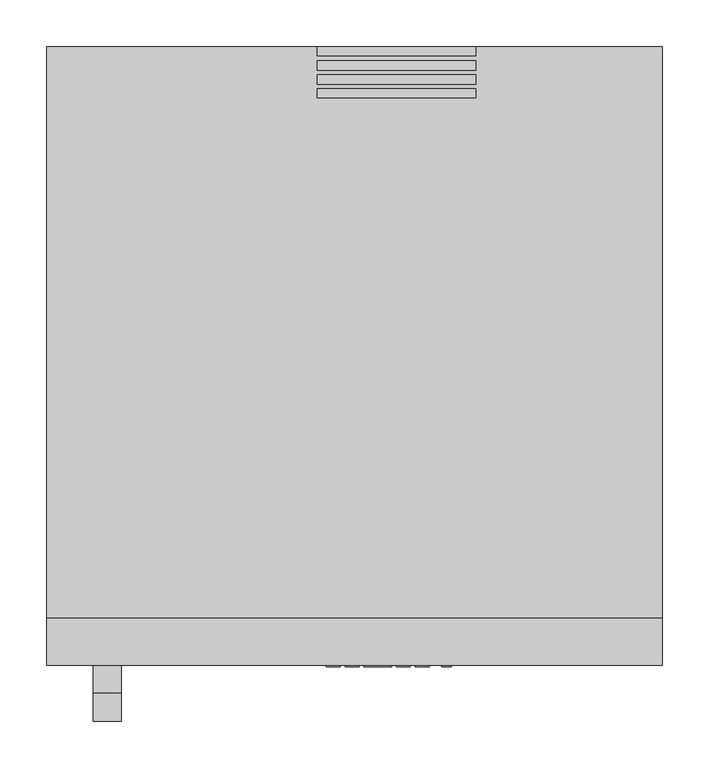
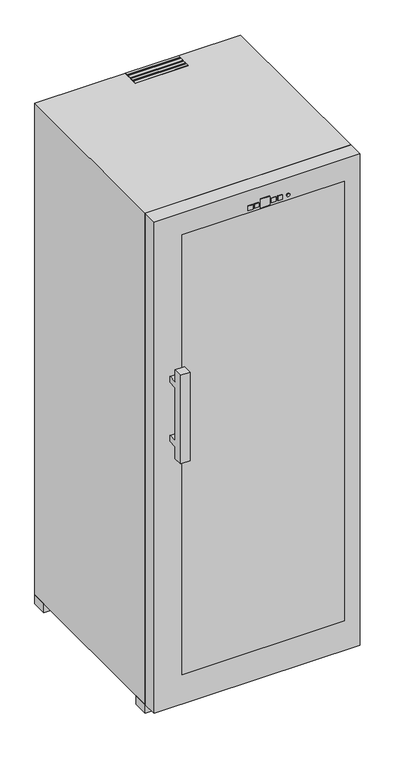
"""IFC4 building model written with IfcOpenShell, lengths in millimetres: proxy geometry, Wkb 4112_049 : WKb 4112."""

from ifc_helpers import new_model, si_unit, point, frame, frame_2d, origin, place, context, project, spatial, polyline, circle_curve, trimmed, segment, composite_curve, outline, extrude, faceted_brep, source, transform, mapped, element, save


def specialty_equipment_9dc1592e(model_context):
    return source(origin(), model_context, "Body", "SolidModel", [
        extrude(outline(polyline([(-390.0, -82.8345306), (-390.0, -110.3345306), (-390.0, -645.8345306), (-910.6805292, -645.8345306), (-910.6805292, -82.8345306), (-390.0, -82.8345306)]), holes=[polyline([(-820.6885747, -112.8345306), (-880.6805292, -112.8345306), (-880.6805292, -615.8345306), (-845.6885747, -615.8345306), (-820.6885747, -615.8345306), (-820.6885747, -112.8345306)]), polyline([(-805.0, -615.8345306), (-740.6885747, -615.8345306), (-740.6885747, -112.8345306), (-805.0, -112.8345306), (-805.0, -615.8345306)]), polyline([(-725.0, -615.8345306), (-660.6885747, -615.8345306), (-660.6885747, -112.8345306), (-725.0, -112.8345306), (-725.0, -615.8345306)]), polyline([(-645.0, -615.8345306), (-575.6885747, -615.8345306), (-575.6885747, -112.8345306), (-645.0, -112.8345306), (-645.0, -615.8345306)]), polyline([(-420.0, -112.8345306), (-477.5, -112.8345306), (-477.5, -615.8345306), (-455.2107547, -615.8345306), (-420.0, -615.8345306), (-420.0, -112.8345306)]), polyline([(-560.0, -615.8345306), (-493.1885747, -615.8345306), (-493.1885747, -112.8345306), (-560.0, -112.8345306), (-560.0, -615.8345306)])]), frame((0.0, 0.0, 957.8132517), z_axis=(0.0, 0.0, 1.0), x_axis=(1.0, 0.0, 0.0)), (0.0, 0.0, 1.0), 15.0),
        extrude(outline(polyline([(-390.0, -82.8345306), (-390.0, -110.3345306), (-390.0, -645.8345306), (-910.6805292, -645.8345306), (-910.6805292, -82.8345306), (-390.0, -82.8345306)]), holes=[polyline([(-820.6885747, -112.8345306), (-880.6805292, -112.8345306), (-880.6805292, -615.8345306), (-845.6885747, -615.8345306), (-820.6885747, -615.8345306), (-820.6885747, -112.8345306)]), polyline([(-805.0, -615.8345306), (-740.6885747, -615.8345306), (-740.6885747, -112.8345306), (-805.0, -112.8345306), (-805.0, -615.8345306)]), polyline([(-725.0, -615.8345306), (-660.6885747, -615.8345306), (-660.6885747, -112.8345306), (-725.0, -112.8345306), (-725.0, -615.8345306)]), polyline([(-645.0, -615.8345306), (-575.6885747, -615.8345306), (-575.6885747, -112.8345306), (-645.0, -112.8345306), (-645.0, -615.8345306)]), polyline([(-420.0, -112.8345306), (-477.5, -112.8345306), (-477.5, -615.8345306), (-455.2107547, -615.8345306), (-420.0, -615.8345306), (-420.0, -112.8345306)]), polyline([(-560.0, -615.8345306), (-493.1885747, -615.8345306), (-493.1885747, -112.8345306), (-560.0, -112.8345306), (-560.0, -615.8345306)])]), frame((0.0, 0.0, 757.8132517), z_axis=(0.0, 0.0, 1.0), x_axis=(1.0, 0.0, 0.0)), (0.0, 0.0, 1.0), 15.0),
        extrude(outline(polyline([(-390.0, -82.8345306), (-390.0, -110.3345306), (-390.0, -645.8345306), (-910.6805292, -645.8345306), (-910.6805292, -82.8345306), (-390.0, -82.8345306)]), holes=[polyline([(-820.6885747, -112.8345306), (-880.6805292, -112.8345306), (-880.6805292, -615.8345306), (-845.6885747, -615.8345306), (-820.6885747, -615.8345306), (-820.6885747, -112.8345306)]), polyline([(-805.0, -615.8345306), (-740.6885747, -615.8345306), (-740.6885747, -112.8345306), (-805.0, -112.8345306), (-805.0, -615.8345306)]), polyline([(-725.0, -615.8345306), (-660.6885747, -615.8345306), (-660.6885747, -112.8345306), (-725.0, -112.8345306), (-725.0, -615.8345306)]), polyline([(-645.0, -615.8345306), (-575.6885747, -615.8345306), (-575.6885747, -112.8345306), (-645.0, -112.8345306), (-645.0, -615.8345306)]), polyline([(-420.0, -112.8345306), (-477.5, -112.8345306), (-477.5, -615.8345306), (-455.2107547, -615.8345306), (-420.0, -615.8345306), (-420.0, -112.8345306)]), polyline([(-560.0, -615.8345306), (-493.1885747, -615.8345306), (-493.1885747, -112.8345306), (-560.0, -112.8345306), (-560.0, -615.8345306)])]), frame((0.0, 0.0, 457.8132517), z_axis=(0.0, 0.0, 1.0), x_axis=(1.0, 0.0, 0.0)), (0.0, 0.0, 1.0), 15.0),
        extrude(outline(polyline([(-390.0, -82.8345306), (-390.0, -110.3345306), (-390.0, -645.8345306), (-910.6805292, -645.8345306), (-910.6805292, -82.8345306), (-390.0, -82.8345306)]), holes=[polyline([(-820.6885747, -112.8345306), (-880.6805292, -112.8345306), (-880.6805292, -615.8345306), (-845.6885747, -615.8345306), (-820.6885747, -615.8345306), (-820.6885747, -112.8345306)]), polyline([(-805.0, -615.8345306), (-740.6885747, -615.8345306), (-740.6885747, -112.8345306), (-805.0, -112.8345306), (-805.0, -615.8345306)]), polyline([(-725.0, -615.8345306), (-660.6885747, -615.8345306), (-660.6885747, -112.8345306), (-725.0, -112.8345306), (-725.0, -615.8345306)]), polyline([(-645.0, -615.8345306), (-575.6885747, -615.8345306), (-575.6885747, -112.8345306), (-645.0, -112.8345306), (-645.0, -615.8345306)]), polyline([(-420.0, -112.8345306), (-477.5, -112.8345306), (-477.5, -615.8345306), (-455.2107547, -615.8345306), (-420.0, -615.8345306), (-420.0, -112.8345306)]), polyline([(-560.0, -615.8345306), (-493.1885747, -615.8345306), (-493.1885747, -112.8345306), (-560.0, -112.8345306), (-560.0, -615.8345306)])]), frame((0.0, 0.0, 197.8132517), z_axis=(0.0, 0.0, 1.0), x_axis=(1.0, 0.0, 0.0)), (0.0, 0.0, 1.0), 15.0),
        extrude(outline(polyline([(-390.0, -82.8345306), (-390.0, -110.3345306), (-390.0, -645.8345306), (-910.6805292, -645.8345306), (-910.6805292, -82.8345306), (-390.0, -82.8345306)]), holes=[polyline([(-820.6885747, -112.8345306), (-880.6805292, -112.8345306), (-880.6805292, -615.8345306), (-845.6885747, -615.8345306), (-820.6885747, -615.8345306), (-820.6885747, -112.8345306)]), polyline([(-805.0, -615.8345306), (-740.6885747, -615.8345306), (-740.6885747, -112.8345306), (-805.0, -112.8345306), (-805.0, -615.8345306)]), polyline([(-725.0, -615.8345306), (-660.6885747, -615.8345306), (-660.6885747, -112.8345306), (-725.0, -112.8345306), (-725.0, -615.8345306)]), polyline([(-645.0, -615.8345306), (-575.6885747, -615.8345306), (-575.6885747, -112.8345306), (-645.0, -112.8345306), (-645.0, -615.8345306)]), polyline([(-420.0, -112.8345306), (-477.5, -112.8345306), (-477.5, -615.8345306), (-455.2107547, -615.8345306), (-420.0, -615.8345306), (-420.0, -112.8345306)]), polyline([(-560.0, -615.8345306), (-493.1885747, -615.8345306), (-493.1885747, -112.8345306), (-560.0, -112.8345306), (-560.0, -615.8345306)])]), frame((0.0, 0.0, -122.1867483), z_axis=(0.0, 0.0, 1.0), x_axis=(1.0, 0.0, 0.0)), (0.0, 0.0, 1.0), 15.0),
        extrude(outline(polyline([(-390.0, -82.8345306), (-390.0, -110.3345306), (-390.0, -645.8345306), (-910.6805292, -645.8345306), (-910.6805292, -82.8345306), (-390.0, -82.8345306)]), holes=[polyline([(-820.6885747, -112.8345306), (-880.6805292, -112.8345306), (-880.6805292, -615.8345306), (-845.6885747, -615.8345306), (-820.6885747, -615.8345306), (-820.6885747, -112.8345306)]), polyline([(-805.0, -615.8345306), (-740.6885747, -615.8345306), (-740.6885747, -112.8345306), (-805.0, -112.8345306), (-805.0, -615.8345306)]), polyline([(-725.0, -615.8345306), (-660.6885747, -615.8345306), (-660.6885747, -112.8345306), (-725.0, -112.8345306), (-725.0, -615.8345306)]), polyline([(-645.0, -615.8345306), (-575.6885747, -615.8345306), (-575.6885747, -112.8345306), (-645.0, -112.8345306), (-645.0, -615.8345306)]), polyline([(-420.0, -112.8345306), (-477.5, -112.8345306), (-477.5, -615.8345306), (-455.2107547, -615.8345306), (-420.0, -615.8345306), (-420.0, -112.8345306)]), polyline([(-560.0, -615.8345306), (-493.1885747, -615.8345306), (-493.1885747, -112.8345306), (-560.0, -112.8345306), (-560.0, -615.8345306)])]), frame((0.0, 0.0, -347.1867483), z_axis=(0.0, 0.0, 1.0), x_axis=(1.0, 0.0, 0.0)), (0.0, 0.0, 1.0), 5.0),
        extrude(outline(polyline([(-540.0, -29.8345306), (-540.0, -39.8345306), (-710.0, -39.8345306), (-710.0, -29.8345306), (-540.0, -29.8345306)])), frame((0.0, 0.0, 1216.8132517), z_axis=(0.0, 0.0, 1.0), x_axis=(1.0, 0.0, 0.0)), (0.0, 0.0, 1.0), 1.0318985),
        extrude(outline(polyline([(-540.0, -45.1511593), (-540.0, -55.1511593), (-710.0, -55.1511593), (-710.0, -45.1511593), (-540.0, -45.1511593)])), frame((0.0, 0.0, 1216.8132517), z_axis=(0.0, 0.0, 1.0), x_axis=(1.0, 0.0, 0.0)), (0.0, 0.0, 1.0), 1.0318985),
        extrude(outline(polyline([(-540.0, -60.1400497), (-540.0, -70.1400497), (-710.0, -70.1400497), (-710.0, -60.1400497), (-540.0, -60.1400497)])), frame((0.0, 0.0, 1216.8132517), z_axis=(0.0, 0.0, 1.0), x_axis=(1.0, 0.0, 0.0)), (0.0, 0.0, 1.0), 1.0318985),
        extrude(outline(polyline([(-540.0, -74.8345306), (-540.0, -84.8345306), (-710.0, -84.8345306), (-710.0, -74.8345306), (-540.0, -74.8345306)])), frame((0.0, 0.0, 1216.8132517), z_axis=(0.0, 0.0, 1.0), x_axis=(1.0, 0.0, 0.0)), (0.0, 0.0, 1.0), 1.0318985),
        extrude(outline(polyline([(-630.0, -694.7817027), (-660.0, -694.7817027), (-660.0, -692.8345306), (-630.0, -692.8345306), (-630.0, -694.7817027)])), frame((0.0, 0.0, 1146.8132517), z_axis=(0.0, 0.0, 1.0), x_axis=(1.0, 0.0, 0.0)), (0.0, 0.0, 1.0), 30.0),
        extrude(outline(polyline([(-665.0, -694.7817027), (-680.0, -694.7817027), (-680.0, -692.8345306), (-665.0, -692.8345306), (-665.0, -694.7817027)])), frame((0.0, 0.0, 1152.245761), z_axis=(0.0, 0.0, 1.0), x_axis=(1.0, 0.0, 0.0)), (0.0, 0.0, 1.0), 15.0),
        extrude(outline(polyline([(-685.0, -694.7817027), (-700.0, -694.7817027), (-700.0, -692.8345306), (-685.0, -692.8345306), (-685.0, -694.7817027)])), frame((0.0, 0.0, 1152.245761), z_axis=(0.0, 0.0, 1.0), x_axis=(1.0, 0.0, 0.0)), (0.0, 0.0, 1.0), 15.0),
        extrude(outline(polyline([(-610.0, -694.7817027), (-625.0, -694.7817027), (-625.0, -692.8345306), (-610.0, -692.8345306), (-610.0, -694.7817027)])), frame((0.0, 0.0, 1152.245761), z_axis=(0.0, 0.0, 1.0), x_axis=(1.0, 0.0, 0.0)), (0.0, 0.0, 1.0), 15.0),
        extrude(outline(polyline([(-590.0, -694.7817027), (-605.0, -694.7817027), (-605.0, -692.8345306), (-590.0, -692.8345306), (-590.0, -694.7817027)])), frame((0.0, 0.0, 1152.245761), z_axis=(0.0, 0.0, 1.0), x_axis=(1.0, 0.0, 0.0)), (0.0, 0.0, 1.0), 15.0),
        extrude(outline(composite_curve([segment(trimmed(circle_curve(frame_2d((1159.745761, -571.25)), 5.0), [point((1159.745761, -576.25))], [point((1159.745761, -566.25))], False, "CARTESIAN"), True, "CONTINUOUS"), segment(trimmed(circle_curve(frame_2d((1159.745761, -571.25)), 5.0), [point((1159.745761, -566.25))], [point((1159.745761, -576.25))], False, "CARTESIAN"), True, "CONTINUOUS")], self_intersect=False)), frame((0.0, -694.7817027, 0.0), z_axis=(0.0, 1.0, 0.0), x_axis=(0.0, 0.0, 1.0)), (0.0, 0.0, 1.0), 1.947172),
        extrude(outline(polyline([(-390.0, -692.8345306), (-910.0, -692.8345306), (-910.0, -642.8345306), (-390.0, -642.8345306), (-390.0, -692.8345306)])), frame((0.0, 0.0, -347.1867483), z_axis=(0.0, 0.0, 1.0), x_axis=(1.0, 0.0, 0.0)), (0.0, 0.0, 1.0), 1489.0),
        extrude(outline(polyline([(1216.8132517, -340.0), (1216.8132517, -1000.0), (-447.1867483, -1000.0), (-447.1867483, -340.0), (1216.8132517, -340.0)]), holes=[polyline([(1141.8132517, -910.0), (1141.8132517, -390.0), (-347.1867483, -390.0), (-347.1867483, -910.0), (1141.8132517, -910.0)])]), frame((0.0, -692.8345306, 0.0), z_axis=(0.0, 1.0, 0.0), x_axis=(0.0, 0.0, 1.0)), (0.0, 0.0, 1.0), 50.0),
        faceted_brep([(-340.0, -642.8345306, 1216.8132517), (-1000.0, -642.8345306, 1216.8132517), (-1000.0, -642.8345306, -447.1867483), (-340.0, -642.8345306, -447.1867483), (-910.0, -642.8345306, 1141.8132517), (-390.0, -642.8345306, 1141.8132517), (-390.0, -642.8345306, -347.1867483), (-910.0, -642.8345306, -347.1867483), (-340.0, -29.8345306, 1216.8132517), (-340.0, -29.8345306, -447.1867483), (-1000.0, -29.8345306, -447.1867483), (-1000.0, -29.8345306, 1216.8132517), (-390.0, -79.8345306, 1141.8132517), (-910.0, -79.8345306, 1141.8132517), (-910.0, -79.8345306, -347.1867483), (-390.0, -79.8345306, -347.1867483)], [[[0, 1, 2, 3], [4, 5, 6, 7]], [[8, 9, 10, 11]], [[1, 0, 8, 11]], [[2, 1, 11, 10]], [[3, 2, 10, 9]], [[0, 3, 9, 8]], [[12, 13, 14, 15]], [[13, 12, 5, 4]], [[14, 13, 4, 7]], [[15, 14, 7, 6]], [[12, 15, 6, 5]]]),
        extrude(outline(polyline([(-340.0, -592.8345306), (-340.0, -642.8345306), (-390.0, -642.8345306), (-390.0, -592.8345306), (-340.0, -592.8345306)])), frame((0.0, 0.0, -477.1867483), z_axis=(0.0, 0.0, 1.0), x_axis=(1.0, 0.0, 0.0)), (0.0, 0.0, 1.0), 30.0),
        extrude(outline(polyline([(-340.0, -29.8345306), (-340.0, -79.8345306), (-390.0, -79.8345306), (-390.0, -29.8345306), (-340.0, -29.8345306)])), frame((0.0, 0.0, -477.1867483), z_axis=(0.0, 0.0, 1.0), x_axis=(1.0, 0.0, 0.0)), (0.0, 0.0, 1.0), 30.0),
        extrude(outline(polyline([(-950.0, -29.8345306), (-950.0, -79.8345306), (-1000.0, -79.8345306), (-1000.0, -29.8345306), (-950.0, -29.8345306)])), frame((0.0, 0.0, -477.1867483), z_axis=(0.0, 0.0, 1.0), x_axis=(1.0, 0.0, 0.0)), (0.0, 0.0, 1.0), 30.0),
        extrude(outline(polyline([(-950.0, -592.8345306), (-950.0, -642.8345306), (-1000.0, -642.8345306), (-1000.0, -592.8345306), (-950.0, -592.8345306)])), frame((0.0, 0.0, -477.1867483), z_axis=(0.0, 0.0, 1.0), x_axis=(1.0, 0.0, 0.0)), (0.0, 0.0, 1.0), 30.0),
        extrude(outline(polyline([(-722.8345306, 676.8132517), (-692.8345306, 676.8132517), (-692.8345306, 656.8132517), (-722.8345306, 656.8132517), (-722.8345306, 476.8132517), (-692.8345306, 476.8132517), (-692.8345306, 456.8132517), (-722.8345306, 456.8132517), (-722.8345306, 416.8132517), (-752.8345306, 416.8132517), (-752.8345306, 716.8132517), (-722.8345306, 716.8132517), (-722.8345306, 676.8132517)])), frame((-950.0, 0.0, 0.0), z_axis=(1.0, 0.0, 0.0), x_axis=(0.0, 1.0, 0.0)), (0.0, 0.0, 1.0), 30.0),
    ])


if __name__ == "__main__":
    model = new_model("IFC4")
    model_context = context("Model", 3, world=origin())
    ifc_project = project(units=[si_unit("LENGTHUNIT", "METRE", prefix="MILLI")], contexts=[model_context])
    site = spatial("IfcSite", under=ifc_project)
    building = spatial("IfcBuilding", under=site)
    placement = place(None, origin())
    specialty_equipment_shape = specialty_equipment_9dc1592e(model_context)
    element("IfcBuildingElementProxy", 1, Name="Wkb 4112_049 : WKb 4112", ObjectType="Wkb 4112_049 : WKb 4112", at=placement, inside=building, context=model_context, shape_type="MappedRepresentation", body=[
        mapped(specialty_equipment_shape, transform((0.0, 0.0, 0.0), x_axis=(1.0, 0.0, 0.0), y_axis=(0.0, 1.0, 0.0), z_axis=(0.0, 0.0, 1.0))),
    ])
    save(model, "model.ifc")
